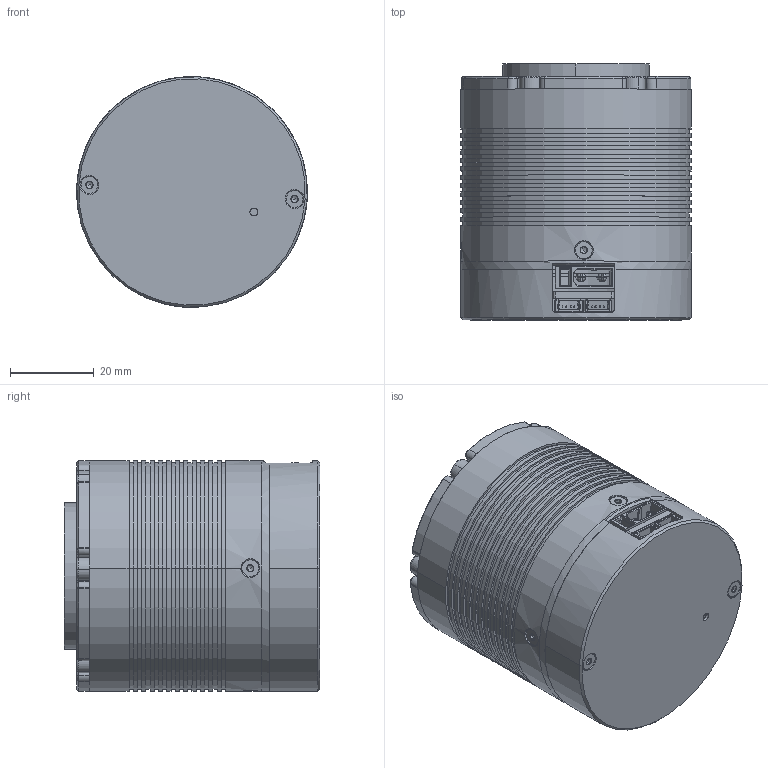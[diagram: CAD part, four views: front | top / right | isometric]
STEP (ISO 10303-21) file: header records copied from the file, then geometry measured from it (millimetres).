
FILE_DESCRIPTION (( 'STEP AP203' ), '1' );
FILE_NAME ('X4-P36-36.STEP', '2025-09-13T03:01:29', ( '微软用户' ), ( '微软中国' ), 'SwSTEP 2.0', 'SolidWorks 2020', '' );
FILE_SCHEMA (( 'CONFIG_CONTROL_DESIGN' ));
Length unit declared in the file: millimetre
Products named in the file (1): X4-P36-36
Bounding box: 55 x 61 x 55 mm (x, y, z)
Surface area: 27067.9 mm2 (no closed solid volume)
Topology: 0 solids, 42 shells, 662 faces, 1936 edges, 1287 vertices
Faces by surface type: plane 323, cylinder 183, cone 136, torus 12, sphere 8
Entity records: 22215 total; most frequent: CARTESIAN_POINT 4758, DIRECTION 3801, ORIENTED_EDGE 3166, EDGE_CURVE 1908, AXIS2_PLACEMENT_3D 1374, VERTEX_POINT 1287, LINE 1053, VECTOR 1053
